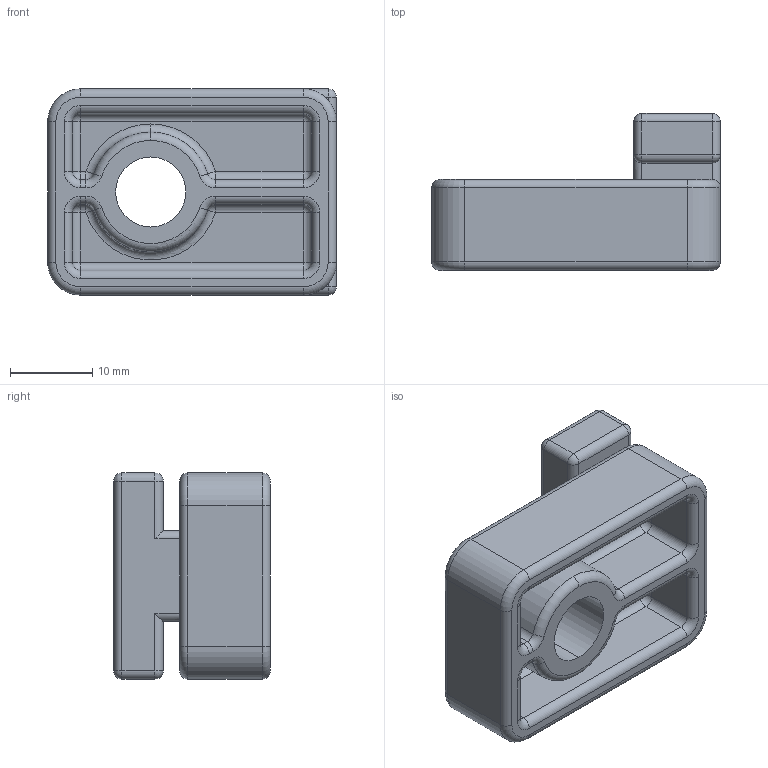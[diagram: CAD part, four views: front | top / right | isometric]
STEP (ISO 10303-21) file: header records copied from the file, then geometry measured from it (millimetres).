
FILE_DESCRIPTION (( 'STEP AP203' ), '1' );
FILE_NAME ('084.303.008-2.STEP', '2018-03-12T13:40:25', ( '' ), ( '' ), 'SwSTEP 2.0', 'SolidWorks 2016', '' );
FILE_SCHEMA (( 'CONFIG_CONTROL_DESIGN' ));
Length unit declared in the file: millimetre
Products named in the file (1): 084.303.008-2
Bounding box: 35 x 19 x 25 mm (x, y, z)
Volume: 7857.8 mm3; surface area: 4900.3 mm2
Topology: 1 solids, 1 shells, 140 faces, 322 edges, 166 vertices
Faces by surface type: cylinder 68, torus 26, plane 26, sphere 20
Entity records: 3821 total; most frequent: DIRECTION 740, CARTESIAN_POINT 627, ORIENTED_EDGE 604, AXIS2_PLACEMENT_3D 303, EDGE_CURVE 302, VERTEX_POINT 166, CIRCLE 162, EDGE_LOOP 144
